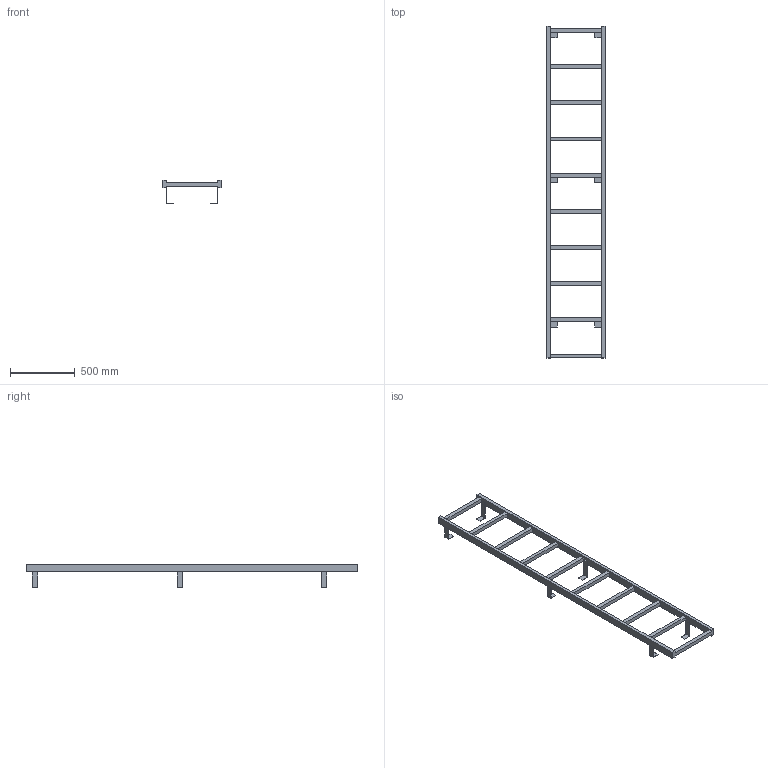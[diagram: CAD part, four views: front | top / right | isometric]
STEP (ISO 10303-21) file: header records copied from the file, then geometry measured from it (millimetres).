
FILE_DESCRIPTION((''),'2;1');
FILE_NAME('017_000109','2017-06-19T',('set'),('HUBER SE'),'PRO/ENGINEER BY PARAMETRIC TECHNOLOGY CORPORATION, 2015280','PRO/ENGINEER BY PARAMETRIC TECHNOLOGY CORPORATION, 2015280','');
FILE_SCHEMA(('CONFIG_CONTROL_DESIGN'));
Length unit declared in the file: millimetre
Products named in the file (1): 017_000109
Bounding box: 450 x 2570 x 178.5 mm (x, y, z)
Volume: 11021940 mm3; surface area: 1399892 mm2
Topology: 1 solids, 1 shells, 98 faces, 389 edges, 287 vertices
Faces by surface type: plane 98
Entity records: 3906 total; most frequent: CARTESIAN_POINT 825, ORIENTED_EDGE 576, DIRECTION 560, VECTOR 342, LINE 342, EDGE_CURVE 288, VERTEX_POINT 186, EDGE_LOOP 110
